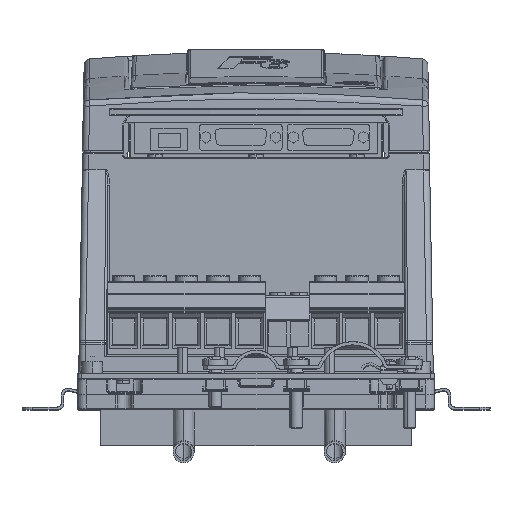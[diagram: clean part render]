
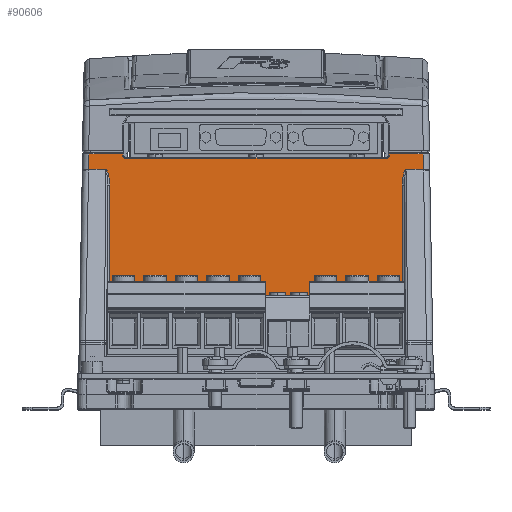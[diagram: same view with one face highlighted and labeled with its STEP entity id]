
A CAD part, top view. The second image highlights one B-rep face of the part: STEP entity #90606.
In plain terms, the highlighted planar face has unit normal (0, 0, 1).
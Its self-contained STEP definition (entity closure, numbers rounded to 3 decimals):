
#1074 = DIRECTION ( 'NONE',  ( 1., 0., 0. ) ) ;
#1993 = DIRECTION ( 'NONE',  ( -1., 0., 0. ) ) ;
#2599 = VERTEX_POINT ( 'NONE', #30146 ) ;
#3192 = VERTEX_POINT ( 'NONE', #16910 ) ;
#3457 = VECTOR ( 'NONE', #23476, 1000. ) ;
#4955 = CARTESIAN_POINT ( 'NONE',  ( -63.5, 48.6, 124. ) ) ;
#5942 = CARTESIAN_POINT ( 'NONE',  ( -84.5, 48.6, 124. ) ) ;
#5966 = LINE ( 'NONE', #84341, #41827 ) ;
#6611 = CARTESIAN_POINT ( 'NONE',  ( 79.633, 48.6, 124. ) ) ;
#8560 = VERTEX_POINT ( 'NONE', #97108 ) ;
#10242 = LINE ( 'NONE', #57795, #43681 ) ;
#11892 = EDGE_CURVE ( 'NONE', #114088, #27271, #52545, .T. ) ;
#13053 = ORIENTED_EDGE ( 'NONE', *, *, #84721, .T. ) ;
#13459 = VERTEX_POINT ( 'NONE', #106642 ) ;
#16366 = EDGE_CURVE ( 'NONE', #43180, #118261, #23200, .T. ) ;
#16545 = CARTESIAN_POINT ( 'NONE',  ( 79.767, 41.234, 124. ) ) ;
#16910 = CARTESIAN_POINT ( 'NONE',  ( 69.763, 33.786, 124. ) ) ;
#21101 = CARTESIAN_POINT ( 'NONE',  ( 71.729, 41.234, 124. ) ) ;
#21507 = VECTOR ( 'NONE', #108015, 1000. ) ;
#23200 = LINE ( 'NONE', #5942, #109256 ) ;
#23476 = DIRECTION ( 'NONE',  ( -1., 0., 0. ) ) ;
#24051 = EDGE_CURVE ( 'NONE', #2599, #8560, #45034, .T. ) ;
#24257 = DIRECTION ( 'NONE',  ( 0., -1., 0. ) ) ;
#24961 = VERTEX_POINT ( 'NONE', #21101 ) ;
#25343 = VERTEX_POINT ( 'NONE', #54421 ) ;
#25502 = CARTESIAN_POINT ( 'NONE',  ( 63.5, 89.215, 124. ) ) ;
#26318 = CARTESIAN_POINT ( 'NONE',  ( -84.5, 89.215, 124. ) ) ;
#27103 = EDGE_CURVE ( 'NONE', #2599, #82748, #10242, .T. ) ;
#27271 = VERTEX_POINT ( 'NONE', #90747 ) ;
#27281 = AXIS2_PLACEMENT_3D ( 'NONE', #86001, #29728, #1993 ) ;
#27389 =( BOUNDED_CURVE ( )  B_SPLINE_CURVE ( 3, ( #71838, #111325, #63775, #53302 ),
 .UNSPECIFIED., .F., .T. ) 
 B_SPLINE_CURVE_WITH_KNOTS ( ( 4, 4 ),
 ( 4.73, 6.284 ),
 .UNSPECIFIED. ) 
 CURVE ( )  GEOMETRIC_REPRESENTATION_ITEM ( )  RATIONAL_B_SPLINE_CURVE ( ( 1., 0.809, 0.809, 1. ) ) 
 REPRESENTATION_ITEM ( '' )  );
#27886 = EDGE_CURVE ( 'NONE', #25343, #42148, #5966, .T. ) ;
#28971 = ORIENTED_EDGE ( 'NONE', *, *, #69092, .T. ) ;
#29728 = DIRECTION ( 'NONE',  ( 0., 0., 1. ) ) ;
#30146 = CARTESIAN_POINT ( 'NONE',  ( -63.5, 47.6, 124. ) ) ;
#30559 = DIRECTION ( 'NONE',  ( 0., 0., 1. ) ) ;
#30849 = CARTESIAN_POINT ( 'NONE',  ( -69.763, 33.786, 124. ) ) ;
#32430 = AXIS2_PLACEMENT_3D ( 'NONE', #50375, #30559, #41677 ) ;
#34355 = VECTOR ( 'NONE', #64770, 1000. ) ;
#35749 = VERTEX_POINT ( 'NONE', #93948 ) ;
#37117 = ORIENTED_EDGE ( 'NONE', *, *, #90971, .T. ) ;
#37902 = CARTESIAN_POINT ( 'NONE',  ( 69.763, -47.109, 124. ) ) ;
#38082 = LINE ( 'NONE', #94339, #42882 ) ;
#38086 = ORIENTED_EDGE ( 'NONE', *, *, #101327, .T. ) ;
#39264 = DIRECTION ( 'NONE',  ( 0., 1., 0. ) ) ;
#39682 = VECTOR ( 'NONE', #79723, 1000. ) ;
#40747 = CARTESIAN_POINT ( 'NONE',  ( 63.5, 47.6, 124. ) ) ;
#41332 = LINE ( 'NONE', #87699, #21507 ) ;
#41677 = DIRECTION ( 'NONE',  ( -1., 0., 0. ) ) ;
#41763 = VERTEX_POINT ( 'NONE', #30849 ) ;
#41827 = VECTOR ( 'NONE', #85565, 1000. ) ;
#42004 = LINE ( 'NONE', #113879, #39682 ) ;
#42148 = VERTEX_POINT ( 'NONE', #108520 ) ;
#42882 = VECTOR ( 'NONE', #1074, 1000. ) ;
#43180 = VERTEX_POINT ( 'NONE', #6611 ) ;
#43681 = VECTOR ( 'NONE', #39264, 1000. ) ;
#44530 = ORIENTED_EDGE ( 'NONE', *, *, #107679, .T. ) ;
#45010 = LINE ( 'NONE', #16545, #34355 ) ;
#45034 = CIRCLE ( 'NONE', #27281, 1. ) ;
#45106 = VECTOR ( 'NONE', #115014, 1000. ) ;
#47653 = EDGE_CURVE ( 'NONE', #35749, #111464, #71964, .T. ) ;
#47741 = ORIENTED_EDGE ( 'NONE', *, *, #96645, .T. ) ;
#50375 = CARTESIAN_POINT ( 'NONE',  ( 62.5, 47.6, 124. ) ) ;
#50852 = CARTESIAN_POINT ( 'NONE',  ( 79.765, 41.234, 124. ) ) ;
#51758 = DIRECTION ( 'NONE',  ( 0., -1., 0. ) ) ;
#52150 = EDGE_CURVE ( 'NONE', #42148, #13459, #38082, .T. ) ;
#52545 = LINE ( 'NONE', #72293, #3457 ) ;
#53302 = CARTESIAN_POINT ( 'NONE',  ( 71.729, 41.234, 124. ) ) ;
#54421 = CARTESIAN_POINT ( 'NONE',  ( -79.633, 48.6, 124. ) ) ;
#54593 = CARTESIAN_POINT ( 'NONE',  ( -70.573, 41.234, 124. ) ) ;
#56276 =( BOUNDED_CURVE ( )  B_SPLINE_CURVE ( 3, ( #112617, #54593, #92898, #120064 ),
 .UNSPECIFIED., .F., .T. ) 
 B_SPLINE_CURVE_WITH_KNOTS ( ( 4, 4 ),
 ( 6.282, 7.836 ),
 .UNSPECIFIED. ) 
 CURVE ( )  GEOMETRIC_REPRESENTATION_ITEM ( )  RATIONAL_B_SPLINE_CURVE ( ( 1., 0.809, 0.809, 1. ) ) 
 REPRESENTATION_ITEM ( '' )  );
#57795 = CARTESIAN_POINT ( 'NONE',  ( -63.5, 89.215, 124. ) ) ;
#59854 = ORIENTED_EDGE ( 'NONE', *, *, #109759, .T. ) ;
#61005 = LINE ( 'NONE', #98722, #83850 ) ;
#61446 = ORIENTED_EDGE ( 'NONE', *, *, #11892, .F. ) ;
#62102 = ORIENTED_EDGE ( 'NONE', *, *, #24051, .F. ) ;
#63004 = ORIENTED_EDGE ( 'NONE', *, *, #27886, .T. ) ;
#63445 = ORIENTED_EDGE ( 'NONE', *, *, #16366, .T. ) ;
#63775 = CARTESIAN_POINT ( 'NONE',  ( 70.573, 41.234, 124. ) ) ;
#64012 = PLANE ( 'NONE',  #106471 ) ;
#64270 = EDGE_CURVE ( 'NONE', #35749, #8560, #42004, .T. ) ;
#64770 = DIRECTION ( 'NONE',  ( 1., 0., 0. ) ) ;
#66551 = EDGE_CURVE ( 'NONE', #24961, #92359, #45010, .T. ) ;
#69092 = EDGE_CURVE ( 'NONE', #41763, #27271, #61005, .T. ) ;
#71838 = CARTESIAN_POINT ( 'NONE',  ( 69.763, 33.786, 124. ) ) ;
#71964 = CIRCLE ( 'NONE', #32430, 1. ) ;
#72293 = CARTESIAN_POINT ( 'NONE',  ( -84.5, -47.109, 124. ) ) ;
#78378 = VECTOR ( 'NONE', #24257, 1000. ) ;
#79723 = DIRECTION ( 'NONE',  ( -1., 0., 0. ) ) ;
#80676 = ORIENTED_EDGE ( 'NONE', *, *, #47653, .F. ) ;
#82748 = VERTEX_POINT ( 'NONE', #4955 ) ;
#83775 = DIRECTION ( 'NONE',  ( -1., 0., 0. ) ) ;
#83850 = VECTOR ( 'NONE', #51758, 1000. ) ;
#84039 = VECTOR ( 'NONE', #103189, 1000. ) ;
#84341 = CARTESIAN_POINT ( 'NONE',  ( -78.911, 89.115, 124. ) ) ;
#84721 = EDGE_CURVE ( 'NONE', #82748, #25343, #110076, .T. ) ;
#85565 = DIRECTION ( 'NONE',  ( -0.018, -1., 0. ) ) ;
#86001 = CARTESIAN_POINT ( 'NONE',  ( -62.5, 47.6, 124. ) ) ;
#86634 = CARTESIAN_POINT ( 'NONE',  ( 78.857, 92.127, 124. ) ) ;
#87699 = CARTESIAN_POINT ( 'NONE',  ( 69.763, 89.215, 124. ) ) ;
#90606 = ADVANCED_FACE ( 'NONE', ( #102861 ), #64012, .F. ) ;
#90747 = CARTESIAN_POINT ( 'NONE',  ( -69.763, -47.109, 124. ) ) ;
#90971 = EDGE_CURVE ( 'NONE', #13459, #41763, #56276, .T. ) ;
#92166 = CARTESIAN_POINT ( 'NONE',  ( -84.5, 48.6, 124. ) ) ;
#92359 = VERTEX_POINT ( 'NONE', #50852 ) ;
#92898 = CARTESIAN_POINT ( 'NONE',  ( -69.763, 38.164, 124. ) ) ;
#93948 = CARTESIAN_POINT ( 'NONE',  ( 62.5, 46.6, 124. ) ) ;
#94339 = CARTESIAN_POINT ( 'NONE',  ( -71.729, 41.234, 124. ) ) ;
#95039 = ORIENTED_EDGE ( 'NONE', *, *, #27103, .T. ) ;
#96602 = ORIENTED_EDGE ( 'NONE', *, *, #64270, .T. ) ;
#96645 = EDGE_CURVE ( 'NONE', #114088, #3192, #41332, .T. ) ;
#97108 = CARTESIAN_POINT ( 'NONE',  ( -62.5, 46.6, 124. ) ) ;
#97999 = DIRECTION ( 'NONE',  ( -1., 0., 0. ) ) ;
#98722 = CARTESIAN_POINT ( 'NONE',  ( -69.763, 89.215, 124. ) ) ;
#98994 = ORIENTED_EDGE ( 'NONE', *, *, #52150, .T. ) ;
#99002 = ORIENTED_EDGE ( 'NONE', *, *, #66551, .T. ) ;
#101327 = EDGE_CURVE ( 'NONE', #3192, #24961, #27389, .T. ) ;
#101333 = CARTESIAN_POINT ( 'NONE',  ( 63.5, 48.6, 124. ) ) ;
#101679 = DIRECTION ( 'NONE',  ( 0., 0., -1. ) ) ;
#102861 = FACE_OUTER_BOUND ( 'NONE', #108718, .T. ) ;
#103189 = DIRECTION ( 'NONE',  ( -1., 0., 0. ) ) ;
#104489 = LINE ( 'NONE', #86634, #45106 ) ;
#106471 = AXIS2_PLACEMENT_3D ( 'NONE', #26318, #101679, #83775 ) ;
#106642 = CARTESIAN_POINT ( 'NONE',  ( -71.729, 41.234, 124. ) ) ;
#107679 = EDGE_CURVE ( 'NONE', #118261, #111464, #119383, .T. ) ;
#108015 = DIRECTION ( 'NONE',  ( 0., 1., 0. ) ) ;
#108520 = CARTESIAN_POINT ( 'NONE',  ( -79.765, 41.234, 124. ) ) ;
#108718 = EDGE_LOOP ( 'NONE', ( #80676, #96602, #62102, #95039, #13053, #63004, #98994, #37117, #28971, #61446, #47741, #38086, #99002, #59854, #63445, #44530 ) ) ;
#109256 = VECTOR ( 'NONE', #97999, 1000. ) ;
#109759 = EDGE_CURVE ( 'NONE', #92359, #43180, #104489, .T. ) ;
#110076 = LINE ( 'NONE', #92166, #84039 ) ;
#111325 = CARTESIAN_POINT ( 'NONE',  ( 69.763, 38.164, 124. ) ) ;
#111464 = VERTEX_POINT ( 'NONE', #40747 ) ;
#112617 = CARTESIAN_POINT ( 'NONE',  ( -71.729, 41.234, 124. ) ) ;
#113879 = CARTESIAN_POINT ( 'NONE',  ( 49.191, 46.6, 124. ) ) ;
#114088 = VERTEX_POINT ( 'NONE', #37902 ) ;
#115014 = DIRECTION ( 'NONE',  ( -0.018, 1., 0. ) ) ;
#118261 = VERTEX_POINT ( 'NONE', #101333 ) ;
#119383 = LINE ( 'NONE', #25502, #78378 ) ;
#120064 = CARTESIAN_POINT ( 'NONE',  ( -69.763, 33.786, 124. ) ) ;
